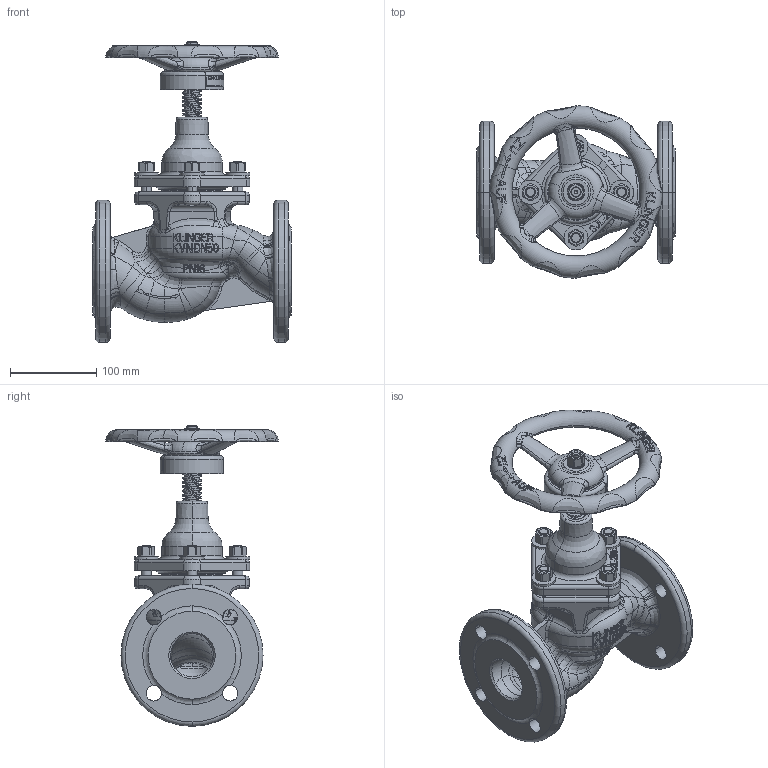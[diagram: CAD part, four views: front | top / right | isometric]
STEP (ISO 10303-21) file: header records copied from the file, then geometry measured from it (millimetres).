
FILE_DESCRIPTION((''),'2;1');
FILE_NAME('KVNFL050S-----P016DGG_SW0001','2014-09-22T',('schwaba'),('RAND'),'PRO/ENGINEER BY PARAMETRIC TECHNOLOGY CORPORATION, 2013410','PRO/ENGINEER BY PARAMETRIC TECHNOLOGY CORPORATION, 2013410','');
FILE_SCHEMA(('CONFIG_CONTROL_DESIGN'));
Products named in the file (1): KVNFL050S-----P016DGG_SW0001
Bounding box: 230 x 199.99 x 348.9 mm (x, y, z)
Volume: 2007167.7 mm3; surface area: 405505.9 mm2
Topology: 3 solids, 3 shells, 2938 faces, 7922 edges, 4993 vertices
Faces by surface type: plane 1509, bspline 713, cylinder 402, torus 194, cone 118, sphere 2
Entity records: 234128 total; most frequent: CARTESIAN_POINT 168013, ORIENTED_EDGE 15836, DIRECTION 10830, EDGE_CURVE 7918, VERTEX_POINT 4993, AXIS2_PLACEMENT_3D 3879, B_SPLINE_CURVE_WITH_KNOTS 3192, VECTOR 3072
